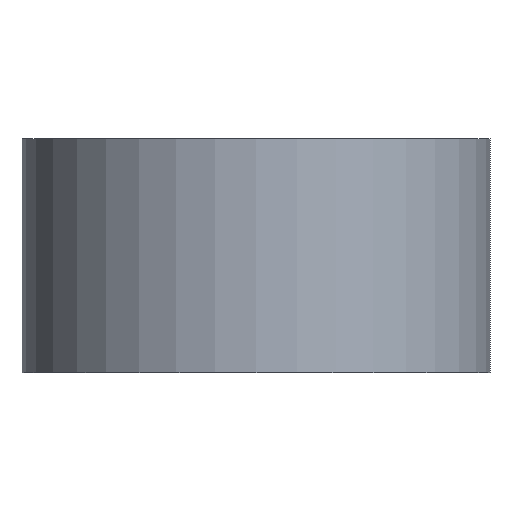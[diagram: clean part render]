
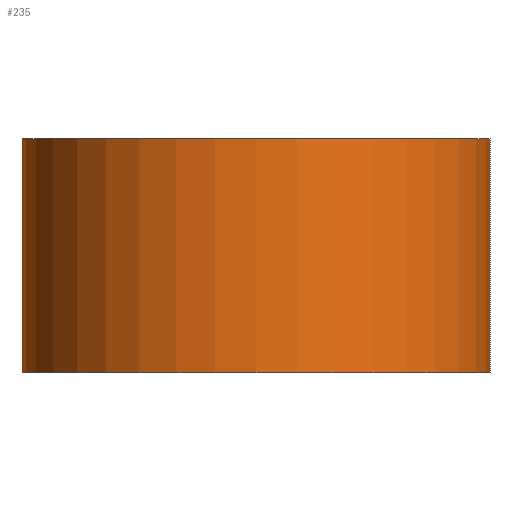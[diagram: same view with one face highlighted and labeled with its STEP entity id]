
A CAD part, front view. The second image highlights one B-rep face of the part: STEP entity #235.
In plain terms, the highlighted cylindrical face has radius 6.35 mm (diameter 12.7 mm), a partial arc.
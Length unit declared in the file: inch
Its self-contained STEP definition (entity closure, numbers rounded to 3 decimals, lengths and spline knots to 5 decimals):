
#3 = VERTEX_POINT ( 'NONE', #276 ) ;
#15 = DIRECTION ( 'NONE',  ( 0., 0., -1. ) ) ;
#27 = EDGE_CURVE ( 'NONE', #312, #301, #129, .T. ) ;
#30 = DIRECTION ( 'NONE',  ( 0., 0., 1. ) ) ;
#32 = ORIENTED_EDGE ( 'NONE', *, *, #93, .T. ) ;
#44 = ORIENTED_EDGE ( 'NONE', *, *, #231, .F. ) ;
#58 = DIRECTION ( 'NONE',  ( 0., 0., -1. ) ) ;
#71 = DIRECTION ( 'NONE',  ( 1., 0., 0. ) ) ;
#81 = AXIS2_PLACEMENT_3D ( 'NONE', #244, #30, #161 ) ;
#93 = EDGE_CURVE ( 'NONE', #301, #106, #265, .T. ) ;
#95 = DIRECTION ( 'NONE',  ( 0., 0., 1. ) ) ;
#99 = CARTESIAN_POINT ( 'NONE',  ( 0.25, 0., 0. ) ) ;
#106 = VERTEX_POINT ( 'NONE', #99 ) ;
#108 = EDGE_CURVE ( 'NONE', #3, #106, #136, .T. ) ;
#118 = CARTESIAN_POINT ( 'NONE',  ( -0.25, 0., 0. ) ) ;
#121 = VECTOR ( 'NONE', #15, 39.37008 ) ;
#129 = LINE ( 'NONE', #141, #327 ) ;
#136 = LINE ( 'NONE', #176, #121 ) ;
#141 = CARTESIAN_POINT ( 'NONE',  ( -0.25, 0., 0.25 ) ) ;
#161 = DIRECTION ( 'NONE',  ( 1., 0., 0. ) ) ;
#165 = ORIENTED_EDGE ( 'NONE', *, *, #108, .F. ) ;
#176 = CARTESIAN_POINT ( 'NONE',  ( 0.25, 0., 0.25 ) ) ;
#188 = CYLINDRICAL_SURFACE ( 'NONE', #291, 0.25 ) ;
#194 = ORIENTED_EDGE ( 'NONE', *, *, #27, .T. ) ;
#197 = EDGE_LOOP ( 'NONE', ( #165, #44, #194, #32 ) ) ;
#231 = EDGE_CURVE ( 'NONE', #312, #3, #267, .T. ) ;
#235 = ADVANCED_FACE ( 'NONE', ( #271 ), #188, .T. ) ;
#244 = CARTESIAN_POINT ( 'NONE',  ( 0., 0., 0.25 ) ) ;
#248 = CARTESIAN_POINT ( 'NONE',  ( -0.25, 0., 0.25 ) ) ;
#265 = CIRCLE ( 'NONE', #295, 0.25 ) ;
#267 = CIRCLE ( 'NONE', #81, 0.25 ) ;
#269 = DIRECTION ( 'NONE',  ( -1., 0., 0. ) ) ;
#271 = FACE_OUTER_BOUND ( 'NONE', #197, .T. ) ;
#276 = CARTESIAN_POINT ( 'NONE',  ( 0.25, 0., 0.25 ) ) ;
#291 = AXIS2_PLACEMENT_3D ( 'NONE', #320, #58, #269 ) ;
#295 = AXIS2_PLACEMENT_3D ( 'NONE', #330, #95, #71 ) ;
#300 = DIRECTION ( 'NONE',  ( 0., 0., -1. ) ) ;
#301 = VERTEX_POINT ( 'NONE', #118 ) ;
#312 = VERTEX_POINT ( 'NONE', #248 ) ;
#320 = CARTESIAN_POINT ( 'NONE',  ( 0., 0., 0.25 ) ) ;
#327 = VECTOR ( 'NONE', #300, 39.37008 ) ;
#330 = CARTESIAN_POINT ( 'NONE',  ( 0., 0., 0. ) ) ;
